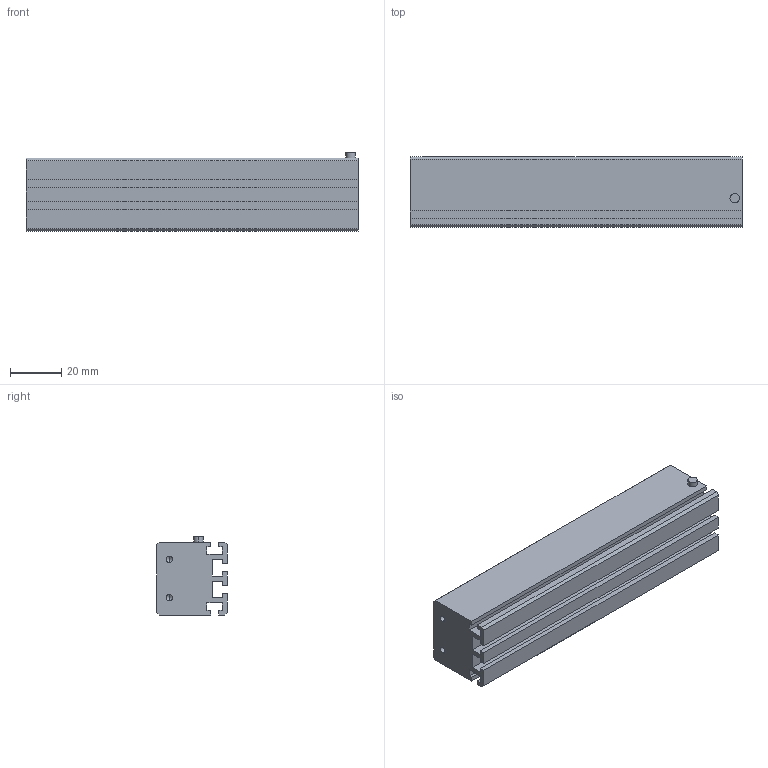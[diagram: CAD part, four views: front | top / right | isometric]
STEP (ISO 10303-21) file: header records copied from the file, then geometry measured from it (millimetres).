
FILE_DESCRIPTION (( 'STEP AP203' ), '1' );
FILE_NAME ('LRD-B4-130.STEP', '2022-08-22T06:31:46', ( 'TNT' ), ( '' ), 'SwSTEP 2.0', 'SolidWorks 2018', '' );
FILE_SCHEMA (( 'CONFIG_CONTROL_DESIGN' ));
Length unit declared in the file: millimetre
Products named in the file (1): LRD-B4-130
Bounding box: 130 x 27.7 x 30.6 mm (x, y, z)
Volume: 85301 mm3; surface area: 24861.8 mm2
Topology: 1 solids, 1 shells, 66 faces, 178 edges, 112 vertices
Faces by surface type: plane 48, cylinder 10, cone 8
Entity records: 2059 total; most frequent: CARTESIAN_POINT 349, ORIENTED_EDGE 340, DIRECTION 324, EDGE_CURVE 170, LINE 150, VECTOR 150, VERTEX_POINT 112, AXIS2_PLACEMENT_3D 87
